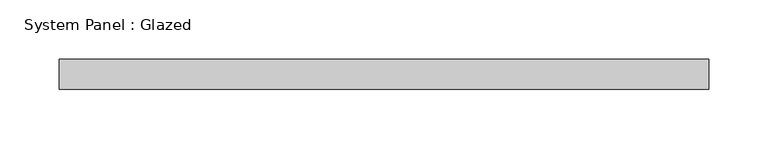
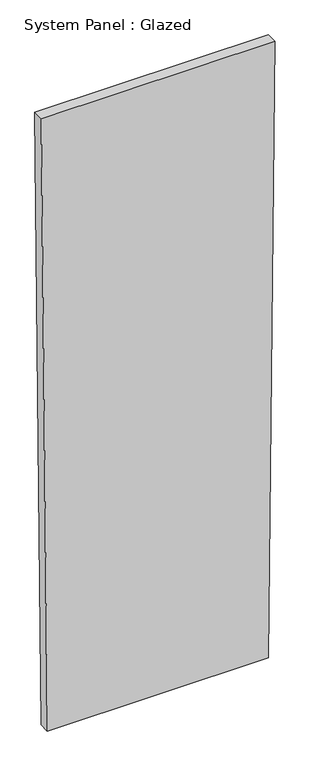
"""IFC4 building model written with IfcOpenShell, lengths in millimetres: plate geometry, System Panel : Glazed."""

import ifcopenshell
import ifcopenshell.guid

model = None  # the IFC model being written
_history = None  # IfcOwnerHistory: only IFC2X3 demands one
_inside = {}  # id of a spatial element -> (the spatial element, [elements in it])
_under = {}  # id of a project, library or spatial element -> (it, [spatial elements below it])
_declared = {}  # id of a project -> (the project, [libraries it declares])
_typed = {}  # id of a type object -> (the type object, [elements of that type])
_made_of = {}  # id of a material, layer set ... -> (it, [elements and type objects made of it])


def new_model(schema):
    """Start an empty IFC model of exactly this schema.

    Asked for "IFC4X3", IfcOpenShell would pick the latest addendum, in which some entities
    have other attributes; the version numbers below select the first issue.
    IFC2X3 requires an IfcOwnerHistory on every rooted entity: one is made here for all.
    """
    global model, _history
    if schema == "IFC4X3":
        model = ifcopenshell.file(schema_version=(4, 3, 0, 0))
    else:
        model = ifcopenshell.file(schema=schema)
    _inside.clear()
    _under.clear()
    _declared.clear()
    _typed.clear()
    _made_of.clear()
    _history = None
    if model.schema == "IFC2X3":
        org = make("IfcOrganization", Name="unknown")
        user = make(
            "IfcPersonAndOrganization",
            ThePerson=make("IfcPerson", FamilyName="unknown"),
            TheOrganization=org,
        )
        app = make(
            "IfcApplication",
            ApplicationDeveloper=org,
            Version="unknown",
            ApplicationFullName="unknown",
            ApplicationIdentifier="unknown",
        )
        _history = make(
            "IfcOwnerHistory",
            OwningUser=user,
            OwningApplication=app,
            ChangeAction="ADDED",
            CreationDate=0,
        )
    return model


def make(cls, **values):
    """One entity of the class cls with the attributes given. An attribute that is None is left unset."""
    return model.create_entity(
        cls, **{name: value for name, value in values.items() if value is not None}
    )


def rooted(cls, **values):
    """An entity with a GlobalId (a new one), such as an element, a storey or a relation."""
    return make(cls, GlobalId=ifcopenshell.guid.new(), OwnerHistory=_history, **values)


def si_unit(unit_type, name, prefix=None):
    """IfcSIUnit, for example si_unit("LENGTHUNIT", "METRE", prefix="MILLI")."""
    return make("IfcSIUnit", UnitType=unit_type, Prefix=prefix, Name=name)


def assignment(units):
    """IfcUnitAssignment: the units of a project."""
    return None if units is None else make("IfcUnitAssignment", Units=units)


def point(xyz):
    """IfcCartesianPoint."""
    return None if xyz is None else make("IfcCartesianPoint", Coordinates=xyz)


def direction(xyz):
    """IfcDirection."""
    return None if xyz is None else make("IfcDirection", DirectionRatios=xyz)


def frame(location, z_axis=None, x_axis=None):
    """IfcAxis2Placement3D, a coordinate frame: its origin and axes. An axis left out is left unset."""
    return make(
        "IfcAxis2Placement3D",
        Location=point(location),
        Axis=direction(z_axis),
        RefDirection=direction(x_axis),
    )


def origin():
    """The frame at (0, 0, 0) with its axes left unset."""
    return frame((0.0, 0.0, 0.0))


def place(relative_to, where):
    """IfcLocalPlacement: puts the frame where relative to a parent placement (None: the world)."""
    return make(
        "IfcLocalPlacement", PlacementRelTo=relative_to, RelativePlacement=where
    )


def context(
    kind, dimensions, precision=None, world=None, true_north=None, identifier=None
):
    """IfcGeometricRepresentationContext, for example the 3D "Model" context."""
    return make(
        "IfcGeometricRepresentationContext",
        ContextIdentifier=identifier,
        ContextType=kind,
        CoordinateSpaceDimension=dimensions,
        Precision=precision,
        WorldCoordinateSystem=world,
        TrueNorth=true_north,
    )


def project(units=None, contexts=None):
    """IfcProject with its units and contexts."""
    return rooted(
        "IfcProject",
        Name="project",
        RepresentationContexts=contexts,
        UnitsInContext=assignment(units),
    )


def spatial(cls, under=None, at=None, **own):
    """A site, building, storey or space (cls), placed at a placement, below another one or the project."""
    s = rooted(cls, ObjectPlacement=at, **own)
    if under is not None:
        _under.setdefault(under.id(), (under, []))[1].append(s)
    return s


def polyline(points):
    """IfcPolyline through the points."""
    return make("IfcPolyline", Points=[point(p) for p in points])


def outline(outer, holes=None, kind="AREA"):
    """IfcArbitraryClosedProfileDef: a profile drawn as a closed curve; with holes, ...WithVoids."""
    if holes is None:
        return make("IfcArbitraryClosedProfileDef", ProfileType=kind, OuterCurve=outer)
    return make(
        "IfcArbitraryProfileDefWithVoids",
        ProfileType=kind,
        OuterCurve=outer,
        InnerCurves=holes,
    )


def extrude(swept, where, along, depth):
    """IfcExtrudedAreaSolid: the profile swept, set in the frame where, extruded along a direction by depth."""
    return make(
        "IfcExtrudedAreaSolid",
        SweptArea=swept,
        Position=where,
        ExtrudedDirection=direction(along),
        Depth=depth,
    )


def shape(context_of_items, identifier, shape_type, items):
    """IfcShapeRepresentation: the items that make up one representation, for example the "Body"."""
    return make(
        "IfcShapeRepresentation",
        ContextOfItems=context_of_items,
        RepresentationIdentifier=identifier,
        RepresentationType=shape_type,
        Items=items,
    )


def source(mapping_origin, context_of_items, identifier, shape_type, items):
    """IfcRepresentationMap: a shape defined once, which mapped items show again and again."""
    return make(
        "IfcRepresentationMap",
        MappingOrigin=mapping_origin,
        MappedRepresentation=shape(context_of_items, identifier, shape_type, items),
    )


def transform(
    local_origin,
    x_axis=None,
    y_axis=None,
    z_axis=None,
    scale=None,
    scale2=None,
    scale3=None,
    uniform=True,
):
    """IfcCartesianTransformationOperator3D, or its non-uniform kind. x_axis, y_axis, z_axis: its Axis1, 2, 3."""
    if uniform:
        return make(
            "IfcCartesianTransformationOperator3D",
            Axis1=direction(x_axis),
            Axis2=direction(y_axis),
            LocalOrigin=point(local_origin),
            Scale=scale,
            Axis3=direction(z_axis),
        )
    return make(
        "IfcCartesianTransformationOperator3DnonUniform",
        Axis1=direction(x_axis),
        Axis2=direction(y_axis),
        LocalOrigin=point(local_origin),
        Scale=scale,
        Axis3=direction(z_axis),
        Scale2=scale2,
        Scale3=scale3,
    )


def mapped(mapping_source, mapping_target):
    """IfcMappedItem: shows the shape of a source again, moved by a transform."""
    return make(
        "IfcMappedItem", MappingSource=mapping_source, MappingTarget=mapping_target
    )


def made_of(thing, what):
    """Note that an element or type object is made of a material, layer set ...; save() writes the relation."""
    if what is not None:
        _made_of.setdefault(what.id(), (what, []))[1].append(thing)
    return thing


def element(
    cls,
    number,
    at=None,
    inside=None,
    cuts=None,
    type_object=None,
    material=None,
    context=None,
    identifier="Body",
    shape_type=None,
    held_by="IfcProductDefinitionShape",
    body=None,
    shapes=None,
    **own,
):
    """One element of the class cls, such as IfcWall. Its Tag is "e" and its number.

    at: its placement. inside: the storey or other place that contains it. cuts: it is an
    opening in that element (IfcRelVoidsElement). A single representation is given by context,
    identifier, shape_type and body (its items); several are given by shapes. held_by: the class
    of the entity that holds the representations. save() writes the other relations.
    """
    e = rooted(cls, Tag="e%d" % number, ObjectPlacement=at, **own)
    if body is not None:
        shapes = [shape(context, identifier, shape_type, body)]
    if shapes is not None:
        e.Representation = make(held_by, Representations=shapes)
    if inside is not None:
        _inside.setdefault(inside.id(), (inside, []))[1].append(e)
    if cuts is not None:
        rooted(
            "IfcRelVoidsElement", RelatingBuildingElement=cuts, RelatedOpeningElement=e
        )
    if type_object is not None:
        _typed.setdefault(type_object.id(), (type_object, []))[1].append(e)
    return made_of(e, material)


def aggregate(whole, parts):
    """IfcRelAggregates: a whole, such as a stair, and the parts it consists of."""
    return rooted("IfcRelAggregates", RelatingObject=whole, RelatedObjects=parts)


def save(model, path):
    """Write the relations noted so far, then the file.

    IfcRelAggregates (storeys below a building ...), IfcRelContainedInSpatialStructure (elements
    in a storey), IfcRelDefinesByType, IfcRelAssociatesMaterial and IfcRelDeclares: one each for
    every whole, place, type object, material and project.
    """
    for whole, parts in _under.values():
        aggregate(whole, parts)
    for where, things in _inside.values():
        rooted(
            "IfcRelContainedInSpatialStructure",
            RelatedElements=things,
            RelatingStructure=where,
        )
    for kind, things in _typed.values():
        rooted("IfcRelDefinesByType", RelatedObjects=things, RelatingType=kind)
    for what, things in _made_of.values():
        rooted("IfcRelAssociatesMaterial", RelatedObjects=things, RelatingMaterial=what)
    for by, libraries in _declared.values():
        rooted("IfcRelDeclares", RelatingContext=by, RelatedDefinitions=libraries)
    model.write(path)


def system_panel_glazed_d13a0f6a(model_context):
    return source(origin(), model_context, "Body", "SweptSolid", [
        extrude(outline(polyline([(0.0, -259.7986329), (0.0, 259.7986329), (1523.9286562, 274.5448419), (1523.9286562, -274.5448419), (0.0, -259.7986329)])), frame((0.0, 19.05, 0.0), z_axis=(0.0, 1.0, 0.0), x_axis=(0.0, 0.0, 1.0)), (0.0, 0.0, 1.0), 25.4),
    ])


if __name__ == "__main__":
    model = new_model("IFC4")
    model_context = context("Model", 3, world=origin())
    ifc_project = project(units=[si_unit("LENGTHUNIT", "METRE", prefix="MILLI")], contexts=[model_context])
    site = spatial("IfcSite", under=ifc_project)
    building = spatial("IfcBuilding", under=site)
    placement = place(None, origin())
    system_panel_glazed_shape = system_panel_glazed_d13a0f6a(model_context)
    element("IfcPlate", 1, ObjectType="System Panel : Glazed", at=placement, inside=building, context=model_context, shape_type="MappedRepresentation", body=[
        mapped(system_panel_glazed_shape, transform((0.0, 0.0, 0.0), x_axis=(1.0, 0.0, 0.0), y_axis=(0.0, 1.0, 0.0), z_axis=(0.0, 0.0, 1.0))),
    ])
    save(model, "model.ifc")
